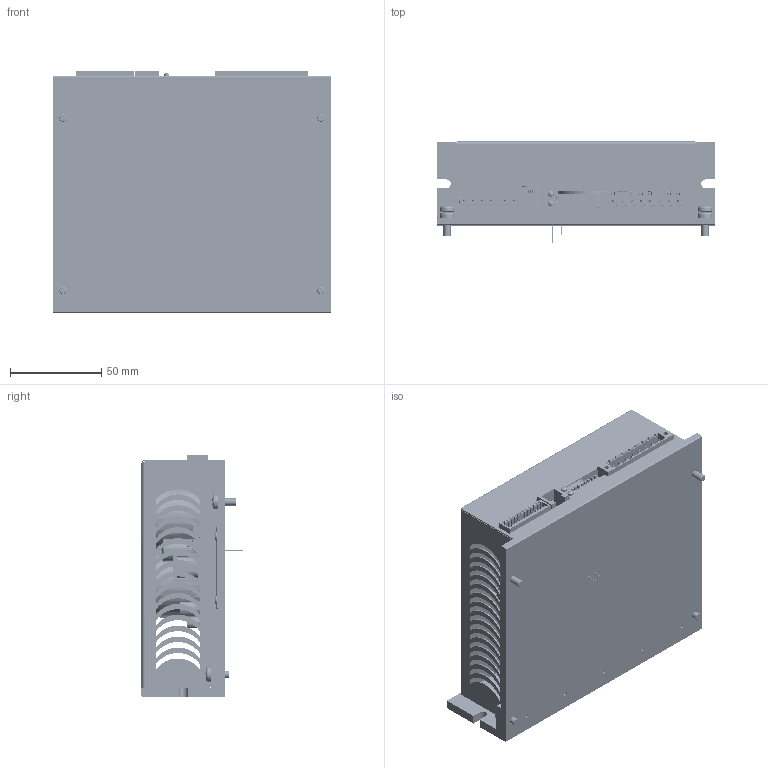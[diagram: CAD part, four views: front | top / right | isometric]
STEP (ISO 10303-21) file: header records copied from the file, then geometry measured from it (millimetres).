
FILE_DESCRIPTION((''),'2;1');
FILE_NAME('LW3A_CON_ILD01_ASM','2020-11-17T09:34:59',('Alessandro Cucchi'),(''),'CREO PARAMETRIC BY PTC INC, 2019344','CREO PARAMETRIC BY PTC INC, 2019344','');
FILE_SCHEMA(('AUTOMOTIVE_DESIGN { 1 0 10303 214 1 1 1 1 }'));
Products named in the file (539): ESTRUSO_LW3A_ILD01; INSERTO_M2_5X08MM; ESTRUSO_LW3A_ILD01_INS8_ASM; AD_01086_LW3A_ILD01; SCATOLA_LW3A90XX_ILD01; TCC_M2E5X04_AF0; TCC_M2E5X04_AF1; TCC_M2E5X04_AF2; TCC_M2E5X04_AF3; TCC_M2E5X05_AF0; TCC_M2E5X05_AF1; TCC_M2E5X05_AF2; TCC_M2E5X05_AF3; TCC_M2E5X05_AF4; TCC_M2E5X05_AF5; TCC_M2E5X05_AF6; TCC_M2E5X05_AF7; OPEN_CASCADE_STEP_TRANSLAT-1682; BOARD_ASM; CR0603; R521_ASM; LED_0805; LED503_ASM; USER_LIBRARY-SOT363-2; IC407_ASM; IC406_ASM; IC405_ASM; IC404_ASM; IC403_ASM; IC402_ASM; IC401_ASM; IC400_ASM; IC302_ASM; PONTE_MONOFASE_B125S15A; DP201_ASM; CAPC1608X09; C444_ASM; C443_ASM; C442_ASM; C441_ASM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
Assembly tree (966 placements, depth 7):
  LW3A_CON_ILD01_ASM
    ESTRUSO_LW3A_ILD01_INS8_ASM
      ESTRUSO_LW3A_ILD01
      INSERTO_M2_5X08MM  x3
    AD_01086_LW3A_ILD01
    SCATOLA_LW3A90XX_ILD01
    TCC_M2E5X04_AF0
    TCC_M2E5X04_AF1
    TCC_M2E5X04_AF2
    TCC_M2E5X04_AF3
    TCC_M2E5X05_AF0
    TCC_M2E5X05_AF1
    TCC_M2E5X05_AF2
    TCC_M2E5X05_AF3
    TCC_M2E5X05_AF4
    TCC_M2E5X05_AF5
    TCC_M2E5X05_AF6
    TCC_M2E5X05_AF7
    ILD01-01_ASM
      PCB_ASM
        BOARD_ASM
          OPEN_CASCADE_STEP_TRANSLAT-1682
        R521_ASM
          CR0603
        LED503_ASM
          LED_0805
        IC407_ASM
          USER_LIBRARY-SOT363-2
        IC406_ASM
          USER_LIBRARY-SOT363-2
        IC405_ASM
          USER_LIBRARY-SOT363-2
        IC404_ASM
          USER_LIBRARY-SOT363-2
        IC403_ASM
          USER_LIBRARY-SOT363-2
        IC402_ASM
          USER_LIBRARY-SOT363-2
        IC401_ASM
          USER_LIBRARY-SOT363-2
        IC400_ASM
          USER_LIBRARY-SOT363-2
        IC302_ASM
          USER_LIBRARY-SOT363-2
        DP201_ASM
          PONTE_MONOFASE_B125S15A
        C444_ASM
          CAPC1608X09
        C443_ASM
          CAPC1608X09
        C442_ASM
          CAPC1608X09
        C441_ASM
          CAPC1608X09
        C440_ASM
          CAPC1608X09
        C439_ASM
          CAPC1608X09
        C438_ASM
          CAPC1608X09
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Bounding box: 152 x 55.45 x 132.44 mm (x, y, z)
Volume: 302747.1 mm3; surface area: 216317.5 mm2
Topology: 587 solids, 601 shells, 30850 faces, 77035 edges, 46439 vertices
Faces by surface type: plane 18495, cylinder 7654, sphere 1954, extrusion 1444, torus 1011, bspline 190, cone 102
Entity records: 356367 total; most frequent: CARTESIAN_POINT 61636, DIRECTION 44731, ORIENTED_EDGE 41680, EDGE_CURVE 20894, PRESENTATION_STYLE_ASSIGNMENT 18374, STYLED_ITEM 15965, CURVE_STYLE 15665, VECTOR 15317
